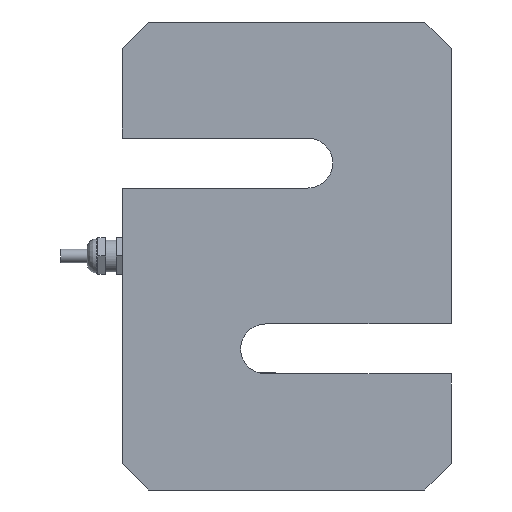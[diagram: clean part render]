
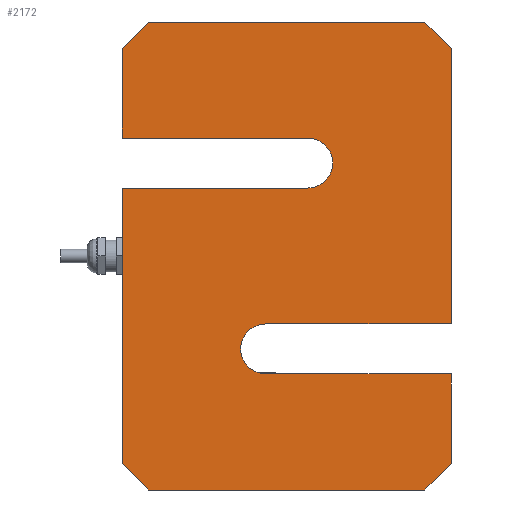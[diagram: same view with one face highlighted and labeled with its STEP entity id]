
A CAD part, front view. The second image highlights one B-rep face of the part: STEP entity #2172.
In plain terms, the highlighted planar face has unit normal (0, -1, 0).
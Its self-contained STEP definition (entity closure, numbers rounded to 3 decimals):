
#212=PLANE('',#2346);
#326=FACE_OUTER_BOUND('',#463,.T.);
#463=EDGE_LOOP('',(#1776,#1777,#1778,#1779,#1780,#1781,#1782,#1783,#1784,
#1785,#1786,#1787,#1788,#1789,#1790,#1791));
#606=LINE('',#6074,#761);
#609=LINE('',#6080,#764);
#612=LINE('',#6086,#767);
#614=LINE('',#6117,#769);
#618=LINE('',#6241,#773);
#620=LINE('',#6245,#775);
#622=LINE('',#6251,#777);
#624=LINE('',#6255,#779);
#625=LINE('',#6493,#780);
#627=LINE('',#6497,#782);
#629=LINE('',#6501,#784);
#630=LINE('',#6504,#785);
#631=LINE('',#6507,#786);
#632=LINE('',#6509,#787);
#761=VECTOR('',#2738,10.);
#764=VECTOR('',#2743,10.);
#767=VECTOR('',#2748,10.);
#769=VECTOR('',#2752,10.);
#773=VECTOR('',#2758,10.);
#775=VECTOR('',#2762,10.);
#777=VECTOR('',#2768,10.);
#779=VECTOR('',#2772,10.);
#780=VECTOR('',#2775,10.);
#782=VECTOR('',#2779,10.);
#784=VECTOR('',#2783,10.);
#785=VECTOR('',#2786,10.);
#786=VECTOR('',#2789,10.);
#787=VECTOR('',#2792,10.);
#823=CIRCLE('',#2347,9.5);
#824=CIRCLE('',#2348,9.5);
#1007=VERTEX_POINT('',#6070);
#1008=VERTEX_POINT('',#6072);
#1009=VERTEX_POINT('',#6076);
#1010=VERTEX_POINT('',#6078);
#1011=VERTEX_POINT('',#6082);
#1012=VERTEX_POINT('',#6084);
#1014=VERTEX_POINT('',#6114);
#1015=VERTEX_POINT('',#6116);
#1016=VERTEX_POINT('',#6239);
#1017=VERTEX_POINT('',#6243);
#1019=VERTEX_POINT('',#6249);
#1020=VERTEX_POINT('',#6253);
#1021=VERTEX_POINT('',#6495);
#1022=VERTEX_POINT('',#6499);
#1023=VERTEX_POINT('',#6503);
#1024=VERTEX_POINT('',#6506);
#1289=EDGE_CURVE('',#1007,#1008,#606,.T.);
#1292=EDGE_CURVE('',#1009,#1010,#609,.T.);
#1295=EDGE_CURVE('',#1011,#1012,#612,.T.);
#1298=EDGE_CURVE('',#1015,#1014,#614,.T.);
#1303=EDGE_CURVE('',#1016,#1015,#618,.T.);
#1305=EDGE_CURVE('',#1012,#1017,#620,.T.);
#1308=EDGE_CURVE('',#1019,#1017,#622,.T.);
#1310=EDGE_CURVE('',#1019,#1020,#624,.T.);
#1313=EDGE_CURVE('',#1009,#1020,#625,.T.);
#1315=EDGE_CURVE('',#1008,#1021,#627,.T.);
#1317=EDGE_CURVE('',#1022,#1021,#629,.T.);
#1318=EDGE_CURVE('',#1016,#1023,#630,.T.);
#1319=EDGE_CURVE('',#1014,#1011,#823,.T.);
#1320=EDGE_CURVE('',#1010,#1024,#631,.T.);
#1321=EDGE_CURVE('',#1024,#1007,#824,.T.);
#1322=EDGE_CURVE('',#1022,#1023,#632,.T.);
#1776=ORIENTED_EDGE('',*,*,#1318,.F.);
#1777=ORIENTED_EDGE('',*,*,#1303,.T.);
#1778=ORIENTED_EDGE('',*,*,#1298,.T.);
#1779=ORIENTED_EDGE('',*,*,#1319,.T.);
#1780=ORIENTED_EDGE('',*,*,#1295,.T.);
#1781=ORIENTED_EDGE('',*,*,#1305,.T.);
#1782=ORIENTED_EDGE('',*,*,#1308,.F.);
#1783=ORIENTED_EDGE('',*,*,#1310,.T.);
#1784=ORIENTED_EDGE('',*,*,#1313,.F.);
#1785=ORIENTED_EDGE('',*,*,#1292,.T.);
#1786=ORIENTED_EDGE('',*,*,#1320,.T.);
#1787=ORIENTED_EDGE('',*,*,#1321,.T.);
#1788=ORIENTED_EDGE('',*,*,#1289,.T.);
#1789=ORIENTED_EDGE('',*,*,#1315,.T.);
#1790=ORIENTED_EDGE('',*,*,#1317,.F.);
#1791=ORIENTED_EDGE('',*,*,#1322,.T.);
#2172=ADVANCED_FACE('',(#326),#212,.F.);
#2346=AXIS2_PLACEMENT_3D('',#6502,#2784,#2785);
#2347=AXIS2_PLACEMENT_3D('',#6505,#2787,#2788);
#2348=AXIS2_PLACEMENT_3D('',#6508,#2790,#2791);
#2738=DIRECTION('',(1.,0.,0.));
#2743=DIRECTION('',(0.,0.,1.));
#2748=DIRECTION('',(-1.,0.,0.));
#2752=DIRECTION('',(1.,0.,0.));
#2758=DIRECTION('',(0.,0.,-1.));
#2762=DIRECTION('',(0.,0.,-1.));
#2768=DIRECTION('',(-0.707,0.,0.707));
#2772=DIRECTION('',(1.,0.,0.));
#2775=DIRECTION('',(-0.707,0.,-0.707));
#2779=DIRECTION('',(0.,0.,1.));
#2783=DIRECTION('',(0.707,0.,-0.707));
#2784=DIRECTION('center_axis',(0.,1.,0.));
#2785=DIRECTION('ref_axis',(1.,0.,0.));
#2786=DIRECTION('',(0.707,0.,0.707));
#2787=DIRECTION('center_axis',(0.,1.,0.));
#2788=DIRECTION('ref_axis',(0.,0.,1.));
#2789=DIRECTION('',(-1.,0.,0.));
#2790=DIRECTION('center_axis',(0.,1.,0.));
#2791=DIRECTION('ref_axis',(0.,0.,-1.));
#2792=DIRECTION('',(-1.,0.,0.));
#6070=CARTESIAN_POINT('',(-8.,-25.4,-25.8));
#6072=CARTESIAN_POINT('',(62.5,-25.4,-25.8));
#6074=CARTESIAN_POINT('',(62.5,-25.4,-25.8));
#6076=CARTESIAN_POINT('',(62.5,-25.4,-78.9));
#6078=CARTESIAN_POINT('',(62.5,-25.4,-44.8));
#6080=CARTESIAN_POINT('',(62.5,-25.4,-88.9));
#6082=CARTESIAN_POINT('',(8.,-25.4,25.8));
#6084=CARTESIAN_POINT('',(-62.5,-25.4,25.8));
#6086=CARTESIAN_POINT('',(-62.5,-25.4,25.8));
#6114=CARTESIAN_POINT('',(8.,-25.4,44.8));
#6116=CARTESIAN_POINT('',(-62.5,-25.4,44.8));
#6117=CARTESIAN_POINT('',(-62.5,-25.4,44.8));
#6239=CARTESIAN_POINT('',(-62.5,-25.4,78.9));
#6241=CARTESIAN_POINT('',(-62.5,-25.4,88.9));
#6243=CARTESIAN_POINT('',(-62.5,-25.4,-78.9));
#6245=CARTESIAN_POINT('',(-62.5,-25.4,88.9));
#6249=CARTESIAN_POINT('',(-52.5,-25.4,-88.9));
#6251=CARTESIAN_POINT('',(-64.1,-25.4,-77.3));
#6253=CARTESIAN_POINT('',(52.5,-25.4,-88.9));
#6255=CARTESIAN_POINT('',(-62.5,-25.4,-88.9));
#6493=CARTESIAN_POINT('',(64.1,-25.4,-77.3));
#6495=CARTESIAN_POINT('',(62.5,-25.4,78.9));
#6497=CARTESIAN_POINT('',(62.5,-25.4,-88.9));
#6499=CARTESIAN_POINT('',(52.5,-25.4,88.9));
#6501=CARTESIAN_POINT('',(64.1,-25.4,77.3));
#6502=CARTESIAN_POINT('Origin',(0.,-25.4,0.));
#6503=CARTESIAN_POINT('',(-52.5,-25.4,88.9));
#6504=CARTESIAN_POINT('',(-64.1,-25.4,77.3));
#6505=CARTESIAN_POINT('Origin',(8.,-25.4,35.3));
#6506=CARTESIAN_POINT('',(-8.,-25.4,-44.8));
#6507=CARTESIAN_POINT('',(62.5,-25.4,-44.8));
#6508=CARTESIAN_POINT('Origin',(-8.,-25.4,-35.3));
#6509=CARTESIAN_POINT('',(62.5,-25.4,88.9));
